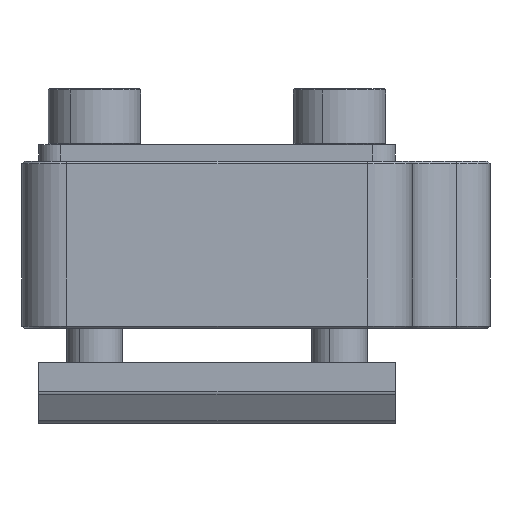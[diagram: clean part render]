
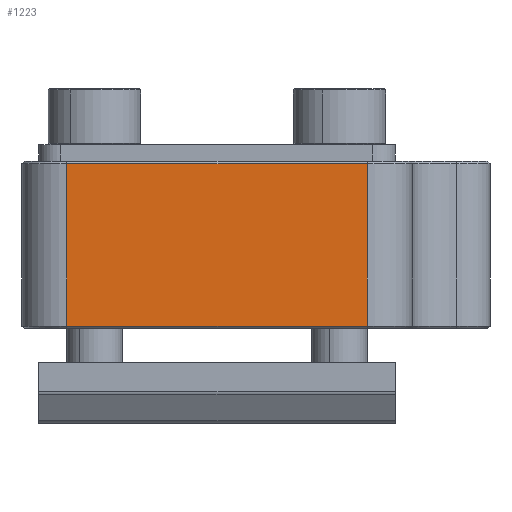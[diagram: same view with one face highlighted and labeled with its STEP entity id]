
A CAD part, left-side view. The second image highlights one B-rep face of the part: STEP entity #1223.
In plain terms, the highlighted planar face has unit normal (-1, 0, 0).
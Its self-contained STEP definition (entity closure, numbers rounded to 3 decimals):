
#169 = EDGE_CURVE ( 'NONE', #5713, #4094, #511, .T. ) ;
#172 = CARTESIAN_POINT ( 'NONE',  ( -97.5, 13.5, -7.3 ) ) ;
#318 = ORIENTED_EDGE ( 'NONE', *, *, #4370, .F. ) ;
#419 = CARTESIAN_POINT ( 'NONE',  ( -97.5, 13.5, 7.5 ) ) ;
#511 = LINE ( 'NONE', #4441, #603 ) ;
#554 = EDGE_CURVE ( 'NONE', #4094, #1339, #5105, .T. ) ;
#603 = VECTOR ( 'NONE', #3990, 1000. ) ;
#754 = VECTOR ( 'NONE', #3551, 1000. ) ;
#849 = CARTESIAN_POINT ( 'NONE',  ( -97.5, -13.5, -7.3 ) ) ;
#1223 = ADVANCED_FACE ( 'NONE', ( #3380 ), #1427, .F. ) ;
#1252 = CARTESIAN_POINT ( 'NONE',  ( -97.5, 13.5, 7.3 ) ) ;
#1263 = CARTESIAN_POINT ( 'NONE',  ( -97.5, 13.5, 7.3 ) ) ;
#1274 = ORIENTED_EDGE ( 'NONE', *, *, #554, .T. ) ;
#1339 = VERTEX_POINT ( 'NONE', #849 ) ;
#1427 = PLANE ( 'NONE',  #3300 ) ;
#1493 = DIRECTION ( 'NONE',  ( 0., 0., -1. ) ) ;
#1760 = LINE ( 'NONE', #1263, #5716 ) ;
#2047 = DIRECTION ( 'NONE',  ( 0., -1., 0. ) ) ;
#2068 = ORIENTED_EDGE ( 'NONE', *, *, #6196, .T. ) ;
#2484 = ORIENTED_EDGE ( 'NONE', *, *, #169, .T. ) ;
#2807 = VERTEX_POINT ( 'NONE', #4179 ) ;
#3170 = VECTOR ( 'NONE', #2047, 1000. ) ;
#3300 = AXIS2_PLACEMENT_3D ( 'NONE', #419, #5376, #1493 ) ;
#3380 = FACE_OUTER_BOUND ( 'NONE', #6143, .T. ) ;
#3551 = DIRECTION ( 'NONE',  ( 0., 0., -1. ) ) ;
#3990 = DIRECTION ( 'NONE',  ( 0., 0., -1. ) ) ;
#4094 = VERTEX_POINT ( 'NONE', #172 ) ;
#4179 = CARTESIAN_POINT ( 'NONE',  ( -97.5, -13.5, 7.3 ) ) ;
#4370 = EDGE_CURVE ( 'NONE', #2807, #1339, #5613, .T. ) ;
#4441 = CARTESIAN_POINT ( 'NONE',  ( -97.5, 13.5, 7.5 ) ) ;
#5073 = CARTESIAN_POINT ( 'NONE',  ( -97.5, -13.5, -7.3 ) ) ;
#5105 = LINE ( 'NONE', #5073, #3170 ) ;
#5376 = DIRECTION ( 'NONE',  ( 1., 0., 0. ) ) ;
#5581 = CARTESIAN_POINT ( 'NONE',  ( -97.5, -13.5, 7.5 ) ) ;
#5613 = LINE ( 'NONE', #5581, #754 ) ;
#5713 = VERTEX_POINT ( 'NONE', #1252 ) ;
#5716 = VECTOR ( 'NONE', #5800, 1000. ) ;
#5800 = DIRECTION ( 'NONE',  ( 0., 1., 0. ) ) ;
#6143 = EDGE_LOOP ( 'NONE', ( #318, #2068, #2484, #1274 ) ) ;
#6196 = EDGE_CURVE ( 'NONE', #2807, #5713, #1760, .T. ) ;
